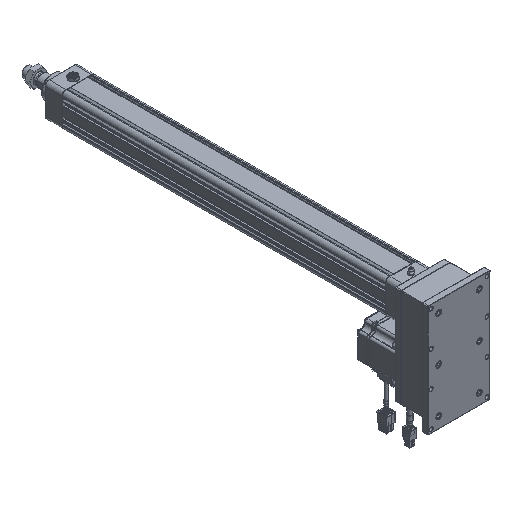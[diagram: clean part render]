
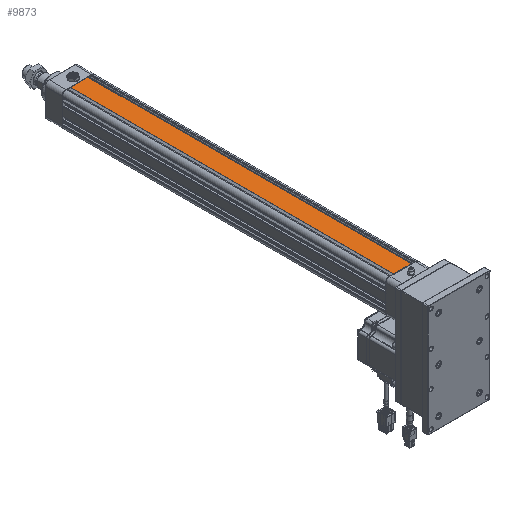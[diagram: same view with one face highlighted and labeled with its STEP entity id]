
A CAD part, isometric view. The second image highlights one B-rep face of the part: STEP entity #9873.
In plain terms, the highlighted planar face has unit normal (0, 0, 1).
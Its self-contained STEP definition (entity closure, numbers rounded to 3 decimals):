
#4809=DIRECTION('',(1.,0.,0.));
#4810=VECTOR('',#4809,26.613);
#4811=CARTESIAN_POINT('',(-13.307,245.7,25.5));
#4812=LINE('',#4811,#4810);
#4813=DIRECTION('',(0.,1.,0.));
#4814=VECTOR('',#4813,491.4);
#4815=CARTESIAN_POINT('',(13.307,-245.7,25.5));
#4816=LINE('',#4815,#4814);
#4817=DIRECTION('',(-1.,0.,0.));
#4818=VECTOR('',#4817,26.613);
#4819=CARTESIAN_POINT('',(13.307,-245.7,25.5));
#4820=LINE('',#4819,#4818);
#4821=DIRECTION('',(0.,-1.,0.));
#4822=VECTOR('',#4821,491.4);
#4823=CARTESIAN_POINT('',(-13.307,245.7,25.5));
#4824=LINE('',#4823,#4822);
#7410=CARTESIAN_POINT('',(13.307,245.7,25.5));
#7411=VERTEX_POINT('',#7410);
#7416=CARTESIAN_POINT('',(-13.307,245.7,25.5));
#7417=VERTEX_POINT('',#7416);
#7736=CARTESIAN_POINT('',(-13.307,-245.7,25.5));
#7737=VERTEX_POINT('',#7736);
#7742=CARTESIAN_POINT('',(13.307,-245.7,25.5));
#7743=VERTEX_POINT('',#7742);
#9859=CARTESIAN_POINT('',(-25.5,-246.,25.5));
#9860=DIRECTION('',(0.,0.,1.));
#9861=DIRECTION('',(1.,0.,0.));
#9862=AXIS2_PLACEMENT_3D('',#9859,#9860,#9861);
#9863=PLANE('',#9862);
#9865=ORIENTED_EDGE('',*,*,#9864,.T.);
#9867=ORIENTED_EDGE('',*,*,#9866,.F.);
#9869=ORIENTED_EDGE('',*,*,#9868,.T.);
#9870=ORIENTED_EDGE('',*,*,#9834,.F.);
#9871=EDGE_LOOP('',(#9865,#9867,#9869,#9870));
#9872=FACE_OUTER_BOUND('',#9871,.F.);
#9873=ADVANCED_FACE('',(#9872),#9863,.T.);
#9834=EDGE_CURVE('',#7417,#7737,#4824,.T.);
#9864=EDGE_CURVE('',#7417,#7411,#4812,.T.);
#9866=EDGE_CURVE('',#7743,#7411,#4816,.T.);
#9868=EDGE_CURVE('',#7743,#7737,#4820,.T.);
